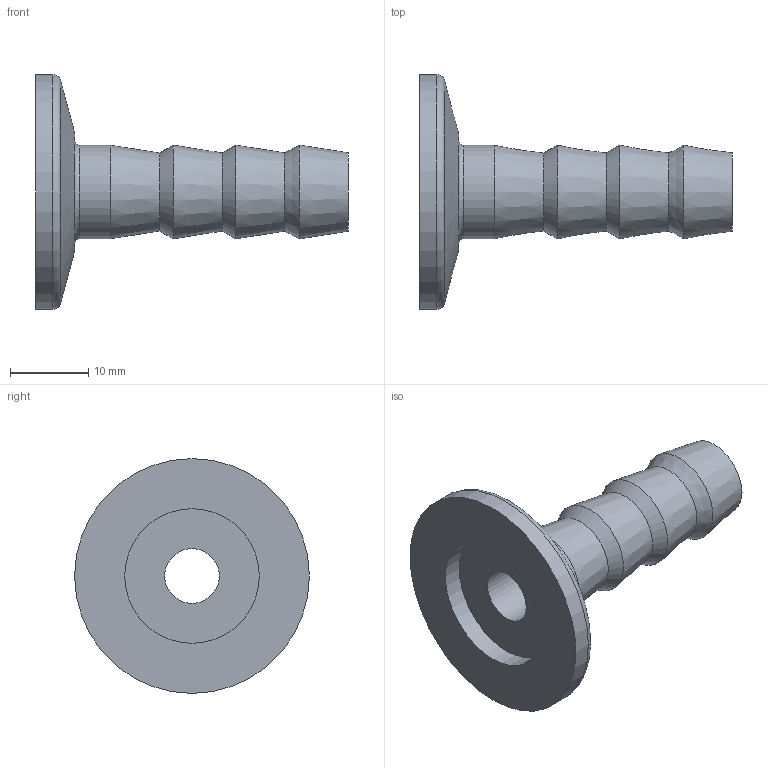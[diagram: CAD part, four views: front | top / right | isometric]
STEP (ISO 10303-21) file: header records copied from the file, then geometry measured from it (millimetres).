
FILE_DESCRIPTION(/* description */ (''),/* implementation_level */ '2;1');
FILE_NAME(/* name */ '18290 88514.step',/* time_stamp */ '2015-03-05T13:24:15+08:00',/* author */ (''),/* organization */ (''),/* preprocessor_version */ 'ST-DEVELOPER v11',/* originating_system */ 'SIEMENS UGS NX 6.0',/* authorisation */ '');
FILE_SCHEMA (('AUTOMOTIVE_DESIGN { 1 0 10303 214 1 1 1 1 }'));
Length unit declared in the file: millimetre
Products named in the file (1): 18290 88514
Bounding box: 40 x 30 x 30 mm (x, y, z)
Volume: 4320.3 mm3; surface area: 3792.9 mm2
Topology: 1 solids, 1 shells, 18 faces, 35 edges, 21 vertices
Faces by surface type: cone 8, plane 4, cylinder 4, torus 2
Full cylindrical faces by diameter (mm): 7 x1, 11.951 x1, 17.2 x1, 30 x1
Entity records: 392 total; most frequent: DIRECTION 74, CARTESIAN_POINT 55, AXIS2_PLACEMENT_3D 37, FACE_BOUND 36, EDGE_LOOP 36, ORIENTED_EDGE 36, ADVANCED_FACE 18, VERTEX_POINT 18
